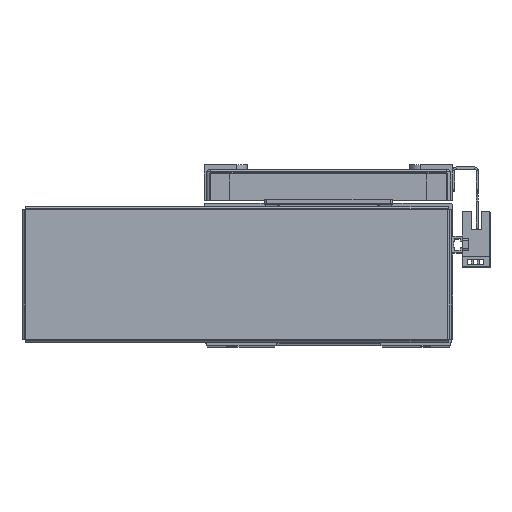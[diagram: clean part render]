
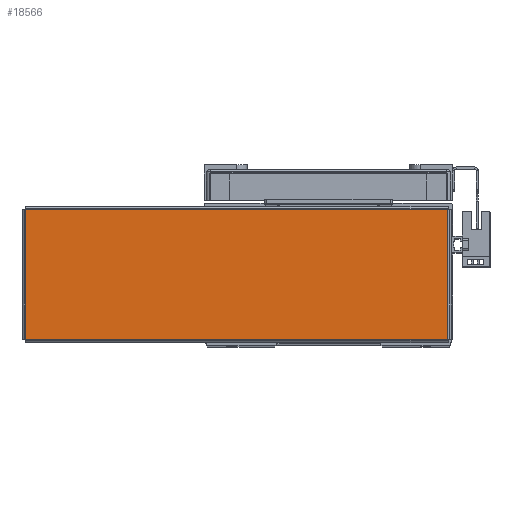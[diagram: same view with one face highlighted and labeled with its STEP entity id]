
A CAD part, top view. The second image highlights one B-rep face of the part: STEP entity #18566.
In plain terms, the highlighted planar face has unit normal (0, 0, 1) as drawn and (0, -1, 0) by its records, which use the part's own axes.
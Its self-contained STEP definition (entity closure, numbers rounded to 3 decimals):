
#12262 = AXIS2_PLACEMENT_3D ( 'NONE', #39337, #39332, #39350 ) ;
#17510 = EDGE_CURVE ( 'NONE', #37458, #37451, #18658, .T. ) ;
#17513 = EDGE_CURVE ( 'NONE', #37495, #37458, #18708, .T. ) ;
#17535 = EDGE_CURVE ( 'NONE', #37484, #37495, #18663, .T. ) ;
#17561 = EDGE_CURVE ( 'NONE', #37451, #37484, #18757, .T. ) ;
#18566 = ADVANCED_FACE ( 'NONE', ( #45150 ), #39184, .F. ) ;
#18658 = LINE ( 'NONE', #35378, #18682 ) ;
#18663 = LINE ( 'NONE', #35457, #18680 ) ;
#18680 = VECTOR ( 'NONE', #35525, 1000. ) ;
#18682 = VECTOR ( 'NONE', #35380, 1000. ) ;
#18694 = VECTOR ( 'NONE', #35426, 1000. ) ;
#18708 = LINE ( 'NONE', #35437, #18694 ) ;
#18757 = LINE ( 'NONE', #35584, #18777 ) ;
#18777 = VECTOR ( 'NONE', #35622, 1000. ) ;
#30707 = CARTESIAN_POINT ( 'NONE',  ( -103.763, -1., -31.763 ) ) ;
#30722 = CARTESIAN_POINT ( 'NONE',  ( -103.763, -1., 31.763 ) ) ;
#30724 = CARTESIAN_POINT ( 'NONE',  ( 103.763, -1., -31.763 ) ) ;
#30742 = CARTESIAN_POINT ( 'NONE',  ( 103.763, -1., 31.763 ) ) ;
#33956 = ORIENTED_EDGE ( 'NONE', *, *, #17510, .T. ) ;
#33996 = ORIENTED_EDGE ( 'NONE', *, *, #17561, .T. ) ;
#34020 = ORIENTED_EDGE ( 'NONE', *, *, #17513, .T. ) ;
#34035 = ORIENTED_EDGE ( 'NONE', *, *, #17535, .T. ) ;
#35378 = CARTESIAN_POINT ( 'NONE',  ( -103.763, -1., 31.793 ) ) ;
#35380 = DIRECTION ( 'NONE',  ( 0., 0., -1. ) ) ;
#35426 = DIRECTION ( 'NONE',  ( -1., 0., 0. ) ) ;
#35437 = CARTESIAN_POINT ( 'NONE',  ( 103.793, -1., 31.763 ) ) ;
#35457 = CARTESIAN_POINT ( 'NONE',  ( 103.763, -1., -31.793 ) ) ;
#35525 = DIRECTION ( 'NONE',  ( 0., 0., 1. ) ) ;
#35584 = CARTESIAN_POINT ( 'NONE',  ( -103.793, -1., -31.763 ) ) ;
#35622 = DIRECTION ( 'NONE',  ( 1., 0., 0. ) ) ;
#37451 = VERTEX_POINT ( 'NONE', #30707 ) ;
#37458 = VERTEX_POINT ( 'NONE', #30722 ) ;
#37484 = VERTEX_POINT ( 'NONE', #30724 ) ;
#37495 = VERTEX_POINT ( 'NONE', #30742 ) ;
#39184 = PLANE ( 'NONE',  #12262 ) ;
#39332 = DIRECTION ( 'NONE',  ( 0., 1., 0. ) ) ;
#39337 = CARTESIAN_POINT ( 'NONE',  ( 0., -1., 0. ) ) ;
#39350 = DIRECTION ( 'NONE',  ( 0., 0., 1. ) ) ;
#45150 = FACE_OUTER_BOUND ( 'NONE', #51693, .T. ) ;
#51693 = EDGE_LOOP ( 'NONE', ( #34020, #33956, #33996, #34035 ) ) ;
